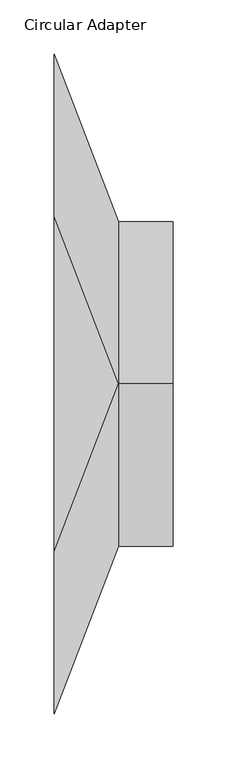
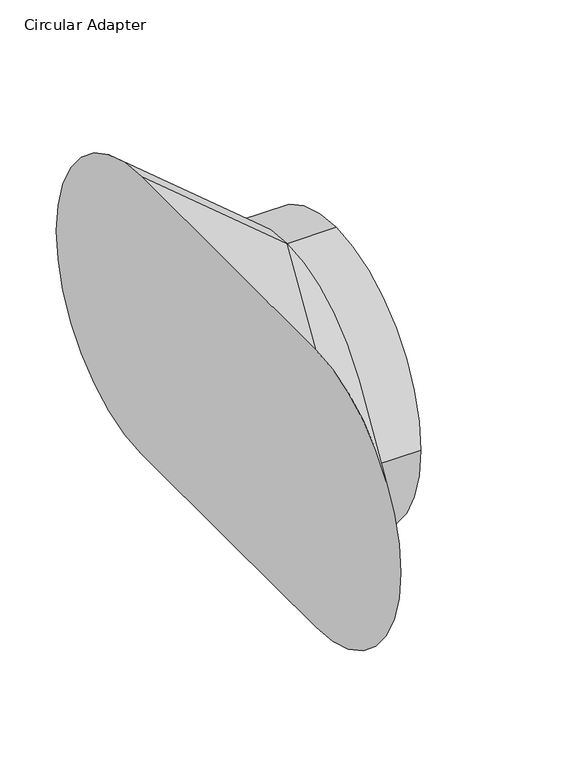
"""IFC4 building model written with IfcOpenShell, lengths in millimetres: duct fitting geometry, Prihoda Circular Duct Adapter : Circular Adapter."""

from ifc_helpers import new_model, si_unit, point, frame, origin, place, context, project, spatial, circle_curve, trimmed, source, transform, mapped, element, save
from ifc_brep_helpers import plane_surface, cylinder_surface, extruded_surface, advanced_brep


def circular_adapter_f9c00698(model_context):
    return source(origin(), model_context, "Body", "AdvancedBrep", [
        advanced_brep(
        [(-100.0, 155.0, 150.0), (-100.0, 305.0, 0.0), (-100.0, 155.0, -150.0), (-100.0, 0.0, -150.0), (-100.0, -155.0, -150.0), (-100.0, -305.0, 0.0), (-100.0, -155.0, 150.0), (-100.0, 0.0, 150.0), (-40.0, -150.0, 0.0), (-40.0, 0.0, 150.0), (-40.0, 0.0, -150.0), (-40.0, 150.0, 0.0), (10.0, 0.0, 150.0), (10.0, -150.0, 0.0), (10.0, 0.0, -150.0), (10.0, 150.0, 0.0)],
        [
            (0, 1, circle_curve(frame((-100.0, 155.0, 0.0), z_axis=(-1.0, 0.0, 0.0), x_axis=(0.0, 1.0, 0.0)), 150.0)),
            (1, 2, circle_curve(frame((-100.0, 155.0, 0.0), z_axis=(-1.0, 0.0, 0.0), x_axis=(0.0, 1.0, 0.0)), 150.0)),
            (2, 3),
            (3, 4),
            (4, 5, circle_curve(frame((-100.0, -155.0, 0.0), z_axis=(-1.0, 0.0, 0.0), x_axis=(0.0, 1.0, 0.0)), 150.0)),
            (5, 6, circle_curve(frame((-100.0, -155.0, 0.0), z_axis=(-1.0, 0.0, 0.0), x_axis=(0.0, 1.0, 0.0)), 150.0)),
            (6, 7),
            (7, 0),
            (5, 8),
            (8, 9, circle_curve(frame((-40.0, 0.0, 0.0), z_axis=(-1.0, 0.0, 0.0), x_axis=(0.0, -1.0, 0.0)), 150.0)),
            (9, 6),
            (4, 10),
            (10, 8, circle_curve(frame((-40.0, 0.0, 0.0), z_axis=(-1.0, 0.0, 0.0), x_axis=(0.0, 0.0, -1.0)), 150.0)),
            (2, 10),
            (1, 11),
            (11, 10, circle_curve(frame((-40.0, 0.0, 0.0), z_axis=(-1.0, 0.0, 0.0), x_axis=(0.0, 1.0, 0.0)), 150.0)),
            (0, 9),
            (9, 11, circle_curve(frame((-40.0, 0.0, 0.0), z_axis=(-1.0, 0.0, 0.0), x_axis=(0.0, 0.0, 1.0)), 150.0)),
            (12, 13, circle_curve(frame((10.0, 0.0, 0.0), z_axis=(1.0, 0.0, 0.0), x_axis=(0.0, -1.0, 0.0)), 150.0)),
            (13, 14, circle_curve(frame((10.0, 0.0, 0.0), z_axis=(1.0, 0.0, 0.0), x_axis=(0.0, 0.0, -1.0)), 150.0)),
            (14, 15, circle_curve(frame((10.0, 0.0, 0.0), z_axis=(1.0, 0.0, 0.0), x_axis=(0.0, 1.0, 0.0)), 150.0)),
            (15, 12, circle_curve(frame((10.0, 0.0, 0.0), z_axis=(1.0, 0.0, 0.0), x_axis=(0.0, 0.0, 1.0)), 150.0)),
            (12, 9),
            (8, 13),
            (10, 14),
            (11, 15),
        ],
        [
            plane_surface(frame((-100.0, 0.0, 0.0), z_axis=(-1.0, 0.0, 0.0), x_axis=(0.0, -1.0, 0.0))),
            extruded_surface(trimmed(circle_curve(frame((-100.0, -155.0, 0.0), z_axis=(1.0, 0.0, 0.0), x_axis=(0.0, 1.0, 0.0)), 150.0), [point((-100.0, -155.0, 150.0))], [point((-100.0, -305.0, 0.0))], True, "CARTESIAN"), (60.0, 155.0, 0.0), 166.20770138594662),
            extruded_surface(trimmed(circle_curve(frame((-100.0, -155.0, 0.0), z_axis=(1.0, 0.0, 0.0), x_axis=(0.0, 1.0, 0.0)), 150.0), [point((-100.0, -305.0, 0.0))], [point((-100.0, -155.0, -150.0))], True, "CARTESIAN"), (60.0, 155.0, 0.0), 166.20770138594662),
            plane_surface(frame((-100.0, 0.0, -150.0), z_axis=(0.0, 0.0, -1.0), x_axis=(0.0, 1.0, 0.0))),
            extruded_surface(trimmed(circle_curve(frame((-100.0, 155.0, 0.0), z_axis=(1.0, 0.0, 0.0), x_axis=(0.0, 1.0, 0.0)), 150.0), [point((-100.0, 155.0, -150.0))], [point((-100.0, 305.0, 0.0))], True, "CARTESIAN"), (60.0, -155.0, 0.0), 166.20770138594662),
            extruded_surface(trimmed(circle_curve(frame((-100.0, 155.0, 0.0), z_axis=(1.0, 0.0, 0.0), x_axis=(0.0, 1.0, 0.0)), 150.0), [point((-100.0, 305.0, 0.0))], [point((-100.0, 155.0, 150.0))], True, "CARTESIAN"), (60.0, -155.0, 0.0), 166.20770138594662),
            plane_surface(frame((-100.0, 0.0, 150.0), z_axis=(0.0, 0.0, 1.0), x_axis=(0.0, -1.0, 0.0))),
            plane_surface(frame((10.0, 0.0, 0.0), z_axis=(1.0, 0.0, 0.0), x_axis=(0.0, -1.0, 0.0))),
            cylinder_surface(frame((-100.0, 0.0, 0.0), z_axis=(1.0, 0.0, 0.0), x_axis=(0.0, -1.0, 0.0)), 150.0),
            cylinder_surface(frame((-100.0, 0.0, 0.0), z_axis=(1.0, 0.0, 0.0), x_axis=(0.0, 0.0, -1.0)), 150.0),
            cylinder_surface(frame((-100.0, 0.0, 0.0), z_axis=(1.0, 0.0, 0.0), x_axis=(0.0, 1.0, 0.0)), 150.0),
            cylinder_surface(frame((-100.0, 0.0, 0.0), z_axis=(1.0, 0.0, 0.0), x_axis=(0.0, 0.0, 1.0)), 150.0),
        ],
        [
            (0, [[1, 2, 3, 4, 5, 6, 7, 8]]),
            (1, [[-6, 9, 10, 11]]),
            (2, [[-5, 12, 13, -9]]),
            (3, [[-12, -4, -3, 14]]),
            (4, [[-2, 15, 16, -14]]),
            (5, [[-1, 17, 18, -15]]),
            (6, [[-11, -17, -8, -7]]),
            (7, [[19, 20, 21, 22]]),
            (8, [[-19, 23, -10, 24]]),
            (9, [[-20, -24, -13, 25]]),
            (10, [[-21, -25, -16, 26]]),
            (11, [[-22, -26, -18, -23]]),
        ],
    ),
    ])


if __name__ == "__main__":
    model = new_model("IFC4")
    model_context = context("Model", 3, world=origin())
    ifc_project = project(units=[si_unit("LENGTHUNIT", "METRE", prefix="MILLI")], contexts=[model_context])
    site = spatial("IfcSite", under=ifc_project)
    building = spatial("IfcBuilding", under=site)
    placement = place(None, origin())
    circular_adapter_shape = circular_adapter_f9c00698(model_context)
    element("IfcDuctFitting", 1, ObjectType="Prihoda Circular Duct Adapter : Circular Adapter", at=placement, inside=building, context=model_context, shape_type="MappedRepresentation", body=[
        mapped(circular_adapter_shape, transform((0.0, 0.0, 0.0), x_axis=(1.0, 0.0, 0.0), y_axis=(0.0, 1.0, 0.0), z_axis=(0.0, 0.0, 1.0))),
    ])
    save(model, "model.ifc")
